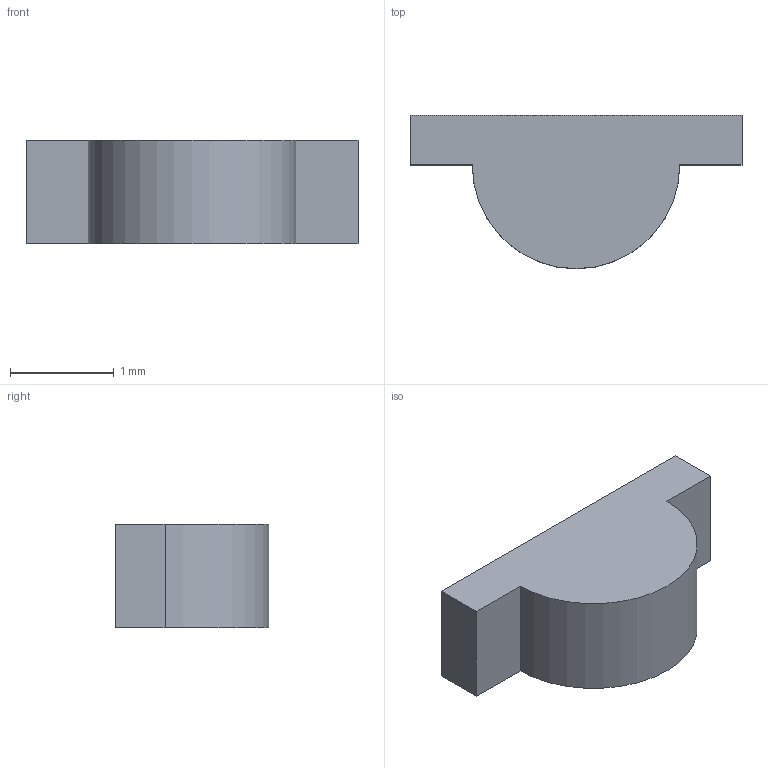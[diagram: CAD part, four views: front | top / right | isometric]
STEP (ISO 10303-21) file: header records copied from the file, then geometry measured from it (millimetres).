
FILE_DESCRIPTION(('FreeCAD Model'),'2;1');
FILE_NAME('Open CASCADE Shape Model','2022-10-03T17:36:53',( 'kicad StepUp'),('ksu MCAD'),'Open CASCADE STEP processor 7.5', 'FreeCAD','Unknown');
FILE_SCHEMA(('AUTOMOTIVE_DESIGN { 1 0 10303 214 1 1 1 1 }'));
Length unit declared in the file: millimetre
Products named in the file (1): Body
Bounding box: 3.2 x 1.48 x 1 mm (x, y, z)
Volume: 3.1 mm3; surface area: 14.7 mm2
Topology: 1 solids, 1 shells, 8 faces, 18 edges, 12 vertices
Faces by surface type: plane 7, cylinder 1
Entity records: 480 total; most frequent: CARTESIAN_POINT 75, DIRECTION 74, LINE 50, VECTOR 50, ORIENTED_EDGE 36, PCURVE 36, DEFINITIONAL_REPRESENTATION 36, EDGE_CURVE 18
